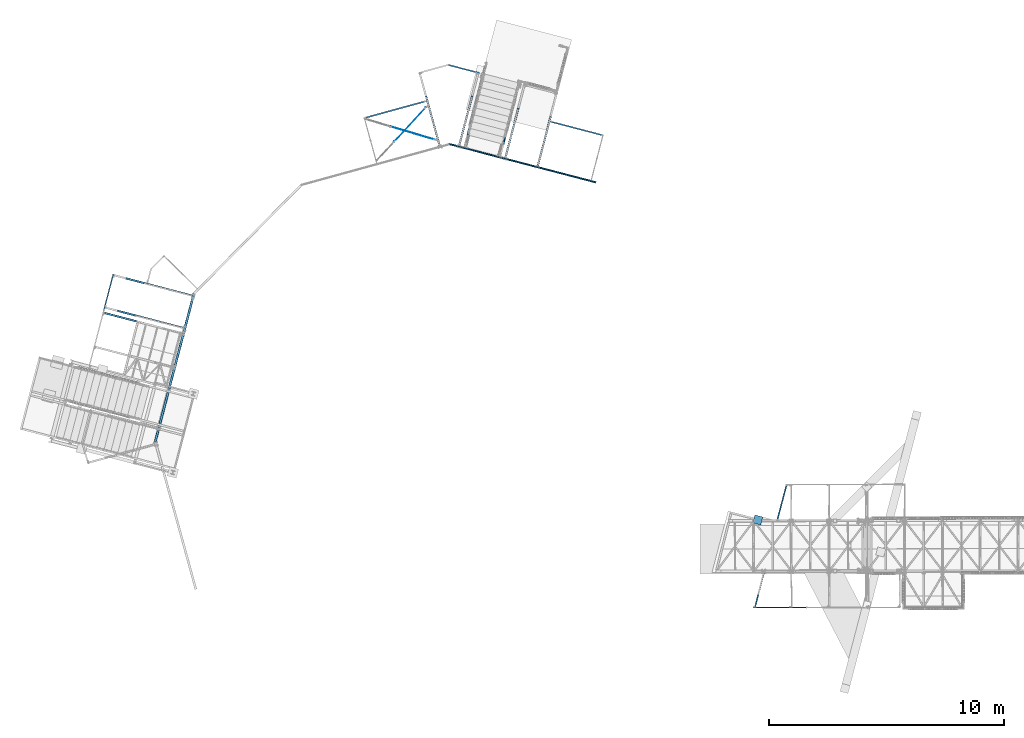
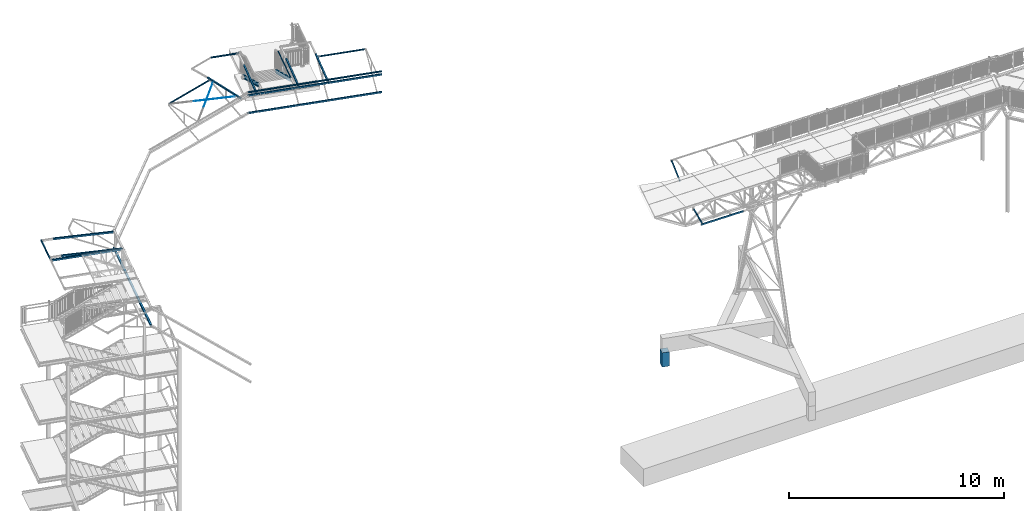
# One storey, part 14 of 169: 22 beams, 2 members, 24 elements without a shape of their own.
"""IFC2X3 building model written with IfcOpenShell, lengths in millimetres."""

from ifc_helpers import new_model, si_unit, frame, origin_with_axes, origin_2d_with_axis, place, context, subcontext, project, spatial, rectangle, hollow_rectangle, circle, l_section, u_section, extrude, boolean, clip, halfspace, material, type_object, element, aggregate, save


model = new_model("IFC2X3")

# Units and contexts
model_context = context("Model", 3, precision=1e-05, world=origin_with_axes())
body_context = subcontext(model_context, "Body", "Model", "MODEL_VIEW")
ifc_project = project(units=[si_unit("LENGTHUNIT", "METRE", prefix="MILLI"), si_unit("AREAUNIT", "SQUARE_METRE"), si_unit("VOLUMEUNIT", "CUBIC_METRE"), si_unit("MASSUNIT", "GRAM", prefix="KILO"), si_unit("TIMEUNIT", "SECOND"), si_unit("PLANEANGLEUNIT", "RADIAN"), si_unit("SOLIDANGLEUNIT", "STERADIAN"), si_unit("THERMODYNAMICTEMPERATUREUNIT", "DEGREE_CELSIUS"), si_unit("LUMINOUSINTENSITYUNIT", "LUMEN")], contexts=[model_context])

# Site, building, storey
site_placement = place(None, origin_with_axes())
site = spatial("IfcSite", under=ifc_project, at=site_placement, Name="Undefined", CompositionType="ELEMENT")
building_placement = place(site_placement, origin_with_axes())
building = spatial("IfcBuilding", under=site, at=building_placement, Name="Undefined", CompositionType="ELEMENT")
storey_placement = place(building_placement, origin_with_axes())
storey = spatial("IfcBuildingStorey", under=building, at=storey_placement, Name="Undefined", CompositionType="ELEMENT", Elevation=0.0)

# Assembly, beam
assembly_1_placement = place(storey_placement, origin_with_axes())
assembly_1 = element("IfcElementAssembly", 1, at=assembly_1_placement, inside=storey, Name="Steel Assembly", AssemblyPlace="NOTDEFINED", PredefinedType="RIGID_FRAME")
ifc_material_1 = material(Name="STEEL/S355")
beam_type_1 = type_object("IfcBeamType", Name="C80*40*3", PredefinedType="NOTDEFINED")
beam_1_placement = place(assembly_1_placement, frame((3555.83307551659, -1433.68193328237, 13902.0316070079), z_axis=(0.0124056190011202, 0.117622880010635, 0.992980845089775), x_axis=(-0.999917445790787, -0.00186469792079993, 0.0127131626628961)))
beam_1 = element("IfcBeam", 2, at=beam_1_placement, type_object=beam_type_1, material=ifc_material_1, Name="BEAM", ObjectType="C80*40*3", context=body_context, shape_type="Clipping", body=[
    clip(extrude(u_section(Depth=80.0, FlangeWidth=40.0, WebThickness=3.0, FlangeThickness=3.0, FilletRadius=4.5, at=origin_2d_with_axis()), frame((2272.00000001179, -4.54254689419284e-13, 0.0), z_axis=(-1.0, -3.46944695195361e-18, -1.38777878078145e-17), x_axis=(1.73472347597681e-18, -1.0, 0.0)), (0.0, 0.0, 1.0), 2262.0), halfspace(frame((9.99999967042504, 1.51658241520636e-09, -999.999999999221), z_axis=(1.0, 0.0, 0.0), x_axis=(1.73472347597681e-18, -1.0, 0.0)), True)),
])
aggregate(assembly_1, [beam_1])

assembly_2_placement = place(storey_placement, origin_with_axes())
assembly_2 = element("IfcElementAssembly", 3, at=assembly_2_placement, inside=storey, Name="Steel Assembly", AssemblyPlace="NOTDEFINED", PredefinedType="RIGID_FRAME")
ifc_material_2 = material(Name="STEEL/S235")
beam_2_placement = place(assembly_2_placement, frame((-10361.4988746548, 21288.8767109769, 13950.4176071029), z_axis=(-2.54700353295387e-10, 0.0, -1.0), x_axis=(-0.967563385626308, 0.252628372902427, -1.72000000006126e-07)))
beam_2 = element("IfcBeam", 4, at=beam_2_placement, type_object=beam_type_1, material=ifc_material_2, Name="BEAM", ObjectType="C80*40*3", context=body_context, shape_type="Clipping", body=[
    clip(extrude(u_section(Depth=80.0, FlangeWidth=40.0, WebThickness=3.0, FlangeThickness=3.0, FilletRadius=4.5, at=origin_2d_with_axis()), frame((1375.87935039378, -3.63797880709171e-12, -1.81898940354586e-12), z_axis=(-1.0, -3.46944695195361e-18, -1.38777878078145e-17), x_axis=(1.73472347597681e-18, -1.0, 0.0)), (0.0, 0.0, 1.0), 1375.88), halfspace(frame((1355.23247194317, -20.000000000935, -1.81898940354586e-12), z_axis=(-0.965924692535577, 0.258823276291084, 1.01328658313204e-10), x_axis=(-2.54700353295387e-10, 0.0, -1.0)), True)),
])
aggregate(assembly_2, [beam_2])

assembly_3_placement = place(storey_placement, origin_with_axes())
assembly_3 = element("IfcElementAssembly", 5, at=assembly_3_placement, inside=storey, Name="Steel Assembly", AssemblyPlace="NOTDEFINED", PredefinedType="RIGID_FRAME")
beam_type_2 = type_object("IfcBeamType", Name="SHS60*3", PredefinedType="NOTDEFINED")
beam_3_placement = place(assembly_3_placement, frame((2295.01354771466, 2204.35859653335, 13732.6759285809), z_axis=(-0.967485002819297, 0.2526293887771, 0.0122947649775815), x_axis=(0.252350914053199, 0.960852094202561, 0.114377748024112)))
beam_3 = element("IfcBeam", 6, at=beam_3_placement, type_object=beam_type_2, material=ifc_material_1, Name="BEAM", ObjectType="SHS60*3", context=body_context, shape_type="Clipping", body=[
    clip(clip(extrude(hollow_rectangle(XDim=60.0, YDim=60.0, WallThickness=3.0, InnerFilletRadius=3.0, OuterFilletRadius=6.0, at=origin_2d_with_axis()), frame((1638.48398458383, 1.7962508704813e-12, 2.40874679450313e-13), z_axis=(-1.0, -3.46944695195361e-18, -1.38777878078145e-17), x_axis=(1.73472347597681e-18, -1.0, 0.0)), (0.0, 0.0, 1.0), 1542.31), halfspace(frame((1611.74311126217, 28.7836646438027, 0.861634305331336), z_axis=(-0.967545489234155, 0.00384330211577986, -0.252667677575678), x_axis=(-0.252667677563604, -0.0299212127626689, 0.967090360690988)), True)), halfspace(frame((130.642665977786, 0.928182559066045, -29.9999999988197), z_axis=(0.960379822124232, 0.113729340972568, 0.254433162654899), x_axis=(0.117599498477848, -0.9930611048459, -1.69175905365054e-09)), True)),
])
aggregate(assembly_3, [beam_3])

assembly_4_placement = place(storey_placement, origin_with_axes())
assembly_4 = element("IfcElementAssembly", 7, at=assembly_4_placement, inside=storey, Name="Steel Assembly", AssemblyPlace="NOTDEFINED", PredefinedType="RIGID_FRAME")
beam_4_placement = place(assembly_4_placement, frame((1775.38479325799, 153.519536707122, 13745.789671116), z_axis=(-0.968017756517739, 0.250871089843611, -0.00230637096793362), x_axis=(-0.249410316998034, -0.961305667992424, 0.116986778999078)))
beam_4 = element("IfcBeam", 8, at=beam_4_placement, type_object=beam_type_2, material=ifc_material_1, Name="BEAM", ObjectType="SHS60*3", context=body_context, shape_type="Clipping", body=[
    clip(clip(extrude(hollow_rectangle(XDim=60.0, YDim=60.0, WallThickness=3.0, InnerFilletRadius=3.0, OuterFilletRadius=6.0, at=origin_2d_with_axis()), frame((1638.43681214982, 1.86446516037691e-12, -2.30127090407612e-13), z_axis=(-1.0, -3.46944695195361e-18, -1.38777878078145e-17), x_axis=(1.73472347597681e-18, -1.0, 0.0)), (0.0, 0.0, 1.0), 1542.05), halfspace(frame((1611.81150637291, 31.1630654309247, 0.474018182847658), z_axis=(-0.967552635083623, -0.00384288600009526, 0.252640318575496), x_axis=(0.252669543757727, -0.0147156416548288, 0.967440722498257)), True)), halfspace(frame((130.848717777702, -0.456428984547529, 30.0067112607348), z_axis=(0.96083888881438, -0.113769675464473, -0.252675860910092), x_axis=(0.113783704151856, 0.99339816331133, -0.0146067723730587)), True)),
])
aggregate(assembly_4, [beam_4])

assembly_5_placement = place(storey_placement, origin_with_axes())
assembly_5 = element("IfcElementAssembly", 9, at=assembly_5_placement, inside=storey, Name="Steel Assembly", AssemblyPlace="NOTDEFINED", PredefinedType="RIGID_FRAME")
beam_type_3 = type_object("IfcBeamType", Name="C100*50*3", PredefinedType="NOTDEFINED")
beam_5_placement = place(assembly_5_placement, frame((-25912.4579633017, 12741.0195183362, 13975.0978932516), z_axis=(8.00909999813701e-05, -0.000162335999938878, -0.999999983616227), x_axis=(-0.252628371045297, -0.967563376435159, 0.000136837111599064)))
beam_5 = element("IfcBeam", 10, at=beam_5_placement, type_object=beam_type_3, material=ifc_material_2, Name="BEAM", ObjectType="C100*50*3", context=body_context, shape_type="Clipping", body=[
    clip(extrude(u_section(Depth=100.0, FlangeWidth=50.0, WebThickness=3.0, FlangeThickness=3.0, FilletRadius=4.5, at=origin_2d_with_axis()), frame((1569.99999999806, -2.69527646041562e-14, -4.25549352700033e-17), z_axis=(-1.0, -3.46944695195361e-18, -1.38777878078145e-17), x_axis=(1.73472347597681e-18, -1.0, 0.0)), (0.0, 0.0, 1.0), 1570.0), halfspace(frame((1569.99999988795, 3.01588443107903e-09, -1000.00000000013), z_axis=(-1.0, -3.46944695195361e-18, -1.38777878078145e-17), x_axis=(0.0, 1.0, 0.0)), True)),
])
aggregate(assembly_5, [beam_5])

assembly_6_placement = place(storey_placement, origin_with_axes())
assembly_6 = element("IfcElementAssembly", 11, at=assembly_6_placement, inside=storey, Name="Steel Assembly", AssemblyPlace="NOTDEFINED", PredefinedType="RIGID_FRAME")
beam_type_4 = type_object("IfcBeamType", Name="RHS100*80*4", PredefinedType="NOTDEFINED")
beam_6_placement = place(assembly_6_placement, frame((-22989.9951886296, 10226.149283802, 13975.4920334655), z_axis=(-5.90399999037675e-06, -0.000139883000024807, -0.999999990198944), x_axis=(-0.967563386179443, 0.252628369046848, -2.9626000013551e-05)))
beam_6 = element("IfcBeam", 12, at=beam_6_placement, type_object=beam_type_4, material=ifc_material_1, Name="BEAM", ObjectType="RHS100*80*4", context=body_context, shape_type="Clipping", body=[
    clip(clip(extrude(hollow_rectangle(XDim=80.0, YDim=100.0, WallThickness=4.0, InnerFilletRadius=4.0, OuterFilletRadius=8.0, at=origin_2d_with_axis()), frame((3416.99555623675, 1.37553656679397e-12, -1.15772312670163e-17), z_axis=(-1.0, -3.46944695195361e-18, -1.38777878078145e-17), x_axis=(1.73472347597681e-18, -1.0, 0.0)), (0.0, 0.0, 1.0), 3451.9), halfspace(frame((3416.99555607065, 9.35551724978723e-09, 50.0000000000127), z_axis=(-1.0, -3.46944695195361e-18, -1.38777878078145e-17), x_axis=(1.73472347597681e-18, -1.0, 0.0)), True)), halfspace(frame((5.00000023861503, 6.82121026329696e-11, -50.0000000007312), z_axis=(-0.780868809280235, -4.01402798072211e-12, 0.624695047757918), x_axis=(0.0, 1.0, 0.0)), False)),
])
aggregate(assembly_6, [beam_6])

assembly_7_placement = place(storey_placement, origin_with_axes())
assembly_7 = element("IfcElementAssembly", 13, at=assembly_7_placement, inside=storey, Name="Steel Assembly", AssemblyPlace="NOTDEFINED", PredefinedType="RIGID_FRAME")
beam_7_placement = place(assembly_7_placement, frame((-22903.2504655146, 10441.1903941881, 13829.2577581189), z_axis=(-0.0482380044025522, 0.0124535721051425, -0.998758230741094), x_axis=(-0.966360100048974, 0.252321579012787, 0.0498194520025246)))
beam_7 = element("IfcBeam", 14, at=beam_7_placement, type_object=beam_type_4, material=ifc_material_2, Name="BEAM", ObjectType="RHS100*80*4", context=body_context, shape_type="Clipping", body=[
    clip(clip(extrude(hollow_rectangle(XDim=80.0, YDim=100.0, WallThickness=4.0, InnerFilletRadius=4.0, OuterFilletRadius=8.0, at=origin_2d_with_axis()), frame((2978.18675110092, -9.93412255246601e-13, 0.0), z_axis=(-1.0, -3.46944695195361e-18, -1.38777878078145e-17), x_axis=(1.73472347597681e-18, -1.0, 0.0)), (0.0, 0.0, 1.0), 2993.28), halfspace(frame((2933.69257357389, -8.90390765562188e-05, -50.0002615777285), z_axis=(-0.999687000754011, -1.63186503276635e-07, -0.0250180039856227), x_axis=(4.12714143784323e-10, 0.999999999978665, -6.5321809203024e-06)), True)), halfspace(frame((30.6545753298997, -39.9991890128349, 6.39980498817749e-07), z_axis=(0.998752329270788, -1.61183526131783e-08, 0.0499378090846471), x_axis=(-0.0499378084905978, 1.77374968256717e-08, 0.998752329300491)), True)),
])
aggregate(assembly_7, [beam_7])

assembly_8_placement = place(storey_placement, origin_with_axes())
assembly_8 = element("IfcElementAssembly", 15, at=assembly_8_placement, inside=storey, Name="Steel Assembly", AssemblyPlace="NOTDEFINED", PredefinedType="RIGID_FRAME")
beam_8_placement = place(assembly_8_placement, frame((-22543.2550363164, 11819.9682054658, 13829.0627653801), z_axis=(-0.0482380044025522, 0.0124535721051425, -0.998758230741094), x_axis=(-0.966360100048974, 0.252321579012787, 0.0498194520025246)))
beam_8 = element("IfcBeam", 16, at=beam_8_placement, type_object=beam_type_4, material=ifc_material_2, Name="BEAM", ObjectType="RHS100*80*4", context=body_context, shape_type="Clipping", body=[
    clip(clip(extrude(hollow_rectangle(XDim=80.0, YDim=100.0, WallThickness=4.0, InnerFilletRadius=4.0, OuterFilletRadius=8.0, at=origin_2d_with_axis()), frame((2978.18617493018, -9.10602132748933e-13, 0.0), z_axis=(-1.0, -3.46944695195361e-18, -1.38777878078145e-17), x_axis=(1.73472347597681e-18, -1.0, 0.0)), (0.0, 0.0, 1.0), 2993.28), halfspace(frame((2933.69199731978, -8.80848228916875e-05, -50.0002606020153), z_axis=(-0.999687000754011, -1.63186503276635e-07, -0.0250180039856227), x_axis=(4.12714143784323e-10, 0.999999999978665, -6.5321809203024e-06)), True)), halfspace(frame((30.6545753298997, -39.9991890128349, 6.39980498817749e-07), z_axis=(0.998752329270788, -1.61183526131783e-08, 0.0499378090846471), x_axis=(-0.0499378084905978, 1.77374968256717e-08, 0.998752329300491)), True)),
])
aggregate(assembly_8, [beam_8])

assembly_9_placement = place(storey_placement, origin_with_axes())
assembly_9 = element("IfcElementAssembly", 17, at=assembly_9_placement, inside=storey, Name="Steel Assembly", AssemblyPlace="NOTDEFINED", PredefinedType="RIGID_FRAME")
beam_type_5 = type_object("IfcBeamType", Name="SHS80*4", PredefinedType="NOTDEFINED")
beam_9_placement = place(assembly_9_placement, frame((-12035.5015905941, 18181.7315690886, 13840.5327014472), z_axis=(-0.0132335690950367, 0.0481524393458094, -0.99875232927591), x_axis=(-0.264670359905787, 0.96304507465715, 0.0499378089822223)))
beam_9 = element("IfcBeam", 18, at=beam_9_placement, type_object=beam_type_5, material=ifc_material_2, Name="BEAM", ObjectType="SHS80*4", context=body_context, shape_type="Clipping", body=[
    clip(clip(extrude(hollow_rectangle(XDim=80.0, YDim=80.0, WallThickness=4.0, InnerFilletRadius=4.0, OuterFilletRadius=8.0, at=origin_2d_with_axis()), frame((2246.72230198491, 7.98642458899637e-13, -3.1179535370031e-14), z_axis=(-1.0, -3.46944695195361e-18, -1.38777878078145e-17), x_axis=(1.73472347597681e-18, -1.0, 0.0)), (0.0, 0.0, 1.0), 2261.74), halfspace(frame((2201.43447402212, 0.000261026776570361, -40.0002591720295), z_axis=(-0.999688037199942, 1.61544689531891e-07, -0.0249765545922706), x_axis=(-1.25063525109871e-09, 0.999999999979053, 6.47253026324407e-06)), True)), halfspace(frame((31.2705059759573, 40.0008109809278, -4.39558789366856e-08), z_axis=(0.998752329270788, -1.61183526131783e-08, 0.0499378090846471), x_axis=(0.0499378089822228, -8.51138014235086e-11, -0.99875232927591)), True)),
])
aggregate(assembly_9, [beam_9])

assembly_10_placement = place(storey_placement, origin_with_axes())
assembly_10 = element("IfcElementAssembly", 19, at=assembly_10_placement, inside=storey, Name="Steel Assembly", AssemblyPlace="NOTDEFINED", PredefinedType="RIGID_FRAME")
beam_10_placement = place(assembly_10_placement, frame((-11211.7764328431, 18190.6628794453, 13840.5327014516), z_axis=(0.0126157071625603, 0.0483179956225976, -0.998752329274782), x_axis=(0.25231349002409, 0.966356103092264, 0.0499378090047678)))
beam_10 = element("IfcBeam", 20, at=beam_10_placement, type_object=beam_type_5, material=ifc_material_2, Name="BEAM", ObjectType="SHS80*4", context=body_context, shape_type="Clipping", body=[
    clip(clip(extrude(hollow_rectangle(XDim=80.0, YDim=80.0, WallThickness=4.0, InnerFilletRadius=4.0, OuterFilletRadius=8.0, at=origin_2d_with_axis()), frame((2244.93196070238, -1.81359368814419e-12, -1.81898940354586e-12), z_axis=(-1.0, -3.46944695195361e-18, -1.38777878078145e-17), x_axis=(1.73472347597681e-18, -1.0, 0.0)), (0.0, 0.0, 1.0), 2278.42), halfspace(frame((2201.43447402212, 0.000261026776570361, -40.0002591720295), z_axis=(-0.999688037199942, 1.61544689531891e-07, -0.0249765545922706), x_axis=(-1.25063525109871e-09, 0.999999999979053, 6.47253026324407e-06)), True)), halfspace(frame((11.0109438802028, 40.0008109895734, 5.18230081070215e-09), z_axis=(0.998752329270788, -1.61183526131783e-08, 0.0499378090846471), x_axis=(0.0499378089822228, -8.51138014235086e-11, -0.99875232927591)), True)),
])
aggregate(assembly_10, [beam_10])

assembly_11_placement = place(storey_placement, origin_with_axes())
assembly_11 = element("IfcElementAssembly", 21, at=assembly_11_placement, inside=storey, Name="Steel Assembly", AssemblyPlace="NOTDEFINED", PredefinedType="RIGID_FRAME")
beam_11_placement = place(assembly_11_placement, frame((-7873.60101963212, 17319.0736527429, 13840.5327014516), z_axis=(0.0126157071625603, 0.0483179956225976, -0.998752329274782), x_axis=(0.25231349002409, 0.966356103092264, 0.0499378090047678)))
beam_11 = element("IfcBeam", 22, at=beam_11_placement, type_object=beam_type_5, material=ifc_material_2, Name="BEAM", ObjectType="SHS80*4", context=body_context, shape_type="Clipping", body=[
    clip(clip(extrude(hollow_rectangle(XDim=80.0, YDim=80.0, WallThickness=4.0, InnerFilletRadius=4.0, OuterFilletRadius=8.0, at=origin_2d_with_axis()), frame((2244.93196070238, -1.81359368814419e-12, -1.81898940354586e-12), z_axis=(-1.0, -3.46944695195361e-18, -1.38777878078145e-17), x_axis=(1.73472347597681e-18, -1.0, 0.0)), (0.0, 0.0, 1.0), 2278.42), halfspace(frame((2201.43447402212, 0.000261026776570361, -40.0002591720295), z_axis=(-0.999688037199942, 1.61544689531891e-07, -0.0249765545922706), x_axis=(-1.25063525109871e-09, 0.999999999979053, 6.47253026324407e-06)), True)), halfspace(frame((11.0109438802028, 40.0008109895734, 5.18230081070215e-09), z_axis=(0.998752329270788, -1.61183526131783e-08, 0.0499378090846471), x_axis=(0.0499378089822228, -8.51138014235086e-11, -0.99875232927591)), True)),
])
aggregate(assembly_11, [beam_11])

assembly_12_placement = place(storey_placement, origin_with_axes())
assembly_12 = element("IfcElementAssembly", 23, at=assembly_12_placement, inside=storey, Name="Steel Assembly", AssemblyPlace="NOTDEFINED", PredefinedType="RIGID_FRAME")
beam_12_placement = place(assembly_12_placement, frame((-9247.54102659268, 17677.8059420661, 13840.5327014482), z_axis=(0.0126157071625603, 0.0483179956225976, -0.998752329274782), x_axis=(0.25231349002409, 0.966356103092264, 0.0499378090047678)))
beam_12 = element("IfcBeam", 24, at=beam_12_placement, type_object=beam_type_5, material=ifc_material_2, Name="BEAM", ObjectType="SHS80*4", context=body_context, shape_type="Clipping", body=[
    clip(clip(extrude(hollow_rectangle(XDim=80.0, YDim=80.0, WallThickness=4.0, InnerFilletRadius=4.0, OuterFilletRadius=8.0, at=origin_2d_with_axis()), frame((2244.93196070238, -1.81359368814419e-12, -1.81898940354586e-12), z_axis=(-1.0, -3.46944695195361e-18, -1.38777878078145e-17), x_axis=(1.73472347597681e-18, -1.0, 0.0)), (0.0, 0.0, 1.0), 2278.42), halfspace(frame((2201.43447402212, 0.000261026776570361, -40.0002591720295), z_axis=(-0.999688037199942, 1.61544689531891e-07, -0.0249765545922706), x_axis=(-1.25063525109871e-09, 0.999999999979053, 6.47253026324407e-06)), True)), halfspace(frame((11.0109438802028, 40.0008109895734, 5.18230081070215e-09), z_axis=(0.998752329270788, -1.61183526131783e-08, 0.0499378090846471), x_axis=(0.0499378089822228, -8.51138014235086e-11, -0.99875232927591)), True)),
])
aggregate(assembly_12, [beam_12])

assembly_13_placement = place(storey_placement, origin_with_axes())
assembly_13 = element("IfcElementAssembly", 25, at=assembly_13_placement, inside=storey, Name="Steel Assembly", AssemblyPlace="NOTDEFINED", PredefinedType="RIGID_FRAME")
beam_type_6 = type_object("IfcBeamType", Name="SHS50*3", PredefinedType="NOTDEFINED")
beam_13_placement = place(assembly_13_placement, frame((-9302.56628211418, 18377.8196980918, 14015.4176077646), z_axis=(0.967563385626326, -0.252628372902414, 0.0), x_axis=(0.252628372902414, 0.967563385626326, 0.0)))
beam_13 = element("IfcBeam", 26, at=beam_13_placement, type_object=beam_type_6, material=ifc_material_2, Name="PORĘCZ", ObjectType="SHS50*3", context=body_context, shape_type="Clipping", body=[
    clip(extrude(hollow_rectangle(XDim=50.0, YDim=50.0, WallThickness=3.0, InnerFilletRadius=3.0, OuterFilletRadius=6.0, at=origin_2d_with_axis()), frame((2135.73518441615, -1.81898940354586e-12, 0.0), z_axis=(-1.0, -3.46944695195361e-18, -1.38777878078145e-17), x_axis=(1.73472347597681e-18, -1.0, 0.0)), (0.0, 0.0, 1.0), 2135.74), halfspace(frame((2110.98885756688, 25.0000000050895, 3.2407660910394e-07), z_axis=(-0.973700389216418, 0.2278322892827, 0.0), x_axis=(0.0, 0.0, 1.0)), True)),
])
aggregate(assembly_13, [beam_13])

# Assembly, member
assembly_14_placement = place(storey_placement, origin_with_axes())
assembly_14 = element("IfcElementAssembly", 27, at=assembly_14_placement, inside=storey, Name="Steel Assembly", AssemblyPlace="NOTDEFINED", PredefinedType="RIGID_FRAME")
member_type = type_object("IfcMemberType", Name="UPE200", PredefinedType="NOTDEFINED")
member_1_placement = place(assembly_14_placement, frame((-9344.66486778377, 18216.5826628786, 13950.7221488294), z_axis=(0.111692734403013, 0.427781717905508, 0.896954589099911), x_axis=(0.226596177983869, 0.867860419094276, -0.442122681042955)))
member_1 = element("IfcMember", 28, at=member_1_placement, type_object=member_type, material=ifc_material_2, Name="BELKA", ObjectType="UPE200", context=body_context, shape_type="Clipping", body=[
    clip(clip(extrude(u_section(Depth=200.0, FlangeWidth=80.0, WebThickness=7.5, FlangeThickness=11.0, FilletRadius=12.0, EdgeRadius=3.0, at=origin_2d_with_axis()), frame((3158.12855242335, 1.6657673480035e-12, -7.45126896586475e-12), z_axis=(-1.0, -3.46944695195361e-18, -1.38777878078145e-17), x_axis=(1.73472347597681e-18, -1.0, 0.0)), (0.0, 0.0, 1.0), 3354.39), halfspace(frame((2876.36677465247, -1.79146081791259e-06, -100.00000071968), z_axis=(-0.849153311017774, 5.97156181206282e-10, 0.528146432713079), x_axis=(0.0, 1.0, 0.0)), True)), halfspace(frame((6.09808921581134e-07, -40.0000000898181, 100.000000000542), z_axis=(-0.97389798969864, -1.77151012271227e-15, -0.226986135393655), x_axis=(1.73472347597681e-18, -1.0, 0.0)), False)),
])
aggregate(assembly_14, [member_1])

assembly_15_placement = place(storey_placement, origin_with_axes())
assembly_15 = element("IfcElementAssembly", 29, at=assembly_15_placement, inside=storey, Name="Steel Assembly", AssemblyPlace="NOTDEFINED", PredefinedType="RIGID_FRAME")
member_2_placement = place(assembly_15_placement, frame((-10183.7785364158, 21217.4504157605, 12624.0179003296), z_axis=(0.111692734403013, 0.427781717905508, 0.896954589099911), x_axis=(-0.226596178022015, -0.867860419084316, 0.442122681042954)))
member_2 = element("IfcMember", 30, at=member_2_placement, type_object=member_type, material=ifc_material_2, Name="BELKA", ObjectType="UPE200", context=body_context, shape_type="Clipping", body=[
    clip(clip(extrude(u_section(Depth=200.0, FlangeWidth=80.0, WebThickness=7.5, FlangeThickness=11.0, FilletRadius=12.0, EdgeRadius=3.0, at=origin_2d_with_axis()), frame((3197.01841106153, -1.55108864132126e-13, -3.46050863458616e-12), z_axis=(-1.0, -3.46944695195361e-18, -1.38777878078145e-17), x_axis=(1.73472347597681e-18, -1.0, 0.0)), (0.0, 0.0, 1.0), 3354.39), halfspace(frame((3000.76043450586, -40.0000014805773, 99.9999999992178), z_axis=(-0.973897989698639, 0.0, 0.226986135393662), x_axis=(1.73472347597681e-18, -1.0, 0.0)), True)), halfspace(frame((124.39366003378, -4.41257725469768e-07, -100.000000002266), z_axis=(-0.849153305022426, 0.0, -0.528146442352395), x_axis=(0.0, 1.0, 0.0)), False)),
])
aggregate(assembly_15, [member_2])

# Assembly, beam
assembly_16_placement = place(storey_placement, origin_with_axes())
assembly_16 = element("IfcElementAssembly", 31, at=assembly_16_placement, inside=storey, Name="Steel Assembly", AssemblyPlace="NOTDEFINED", PredefinedType="RIGID_FRAME")
beam_type_7 = type_object("IfcBeamType", Name="C70*40*4", PredefinedType="NOTDEFINED")
beam_14_placement = place(assembly_16_placement, frame((-12564.8926248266, 20108.634395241, 13946.5082343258), z_axis=(0.000156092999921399, -0.000567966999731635, -0.999999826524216), x_axis=(-0.964243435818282, -0.265018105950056, 0.0)))
beam_14 = element("IfcBeam", 32, at=beam_14_placement, type_object=beam_type_7, material=ifc_material_2, Name="BEAM", ObjectType="C70*40*4", context=body_context, shape_type="Clipping", body=[
    clip(clip(extrude(u_section(Depth=70.0, FlangeWidth=40.0, WebThickness=4.0, FlangeThickness=4.0, FilletRadius=6.0, at=origin_2d_with_axis()), frame((2740.00034876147, 3.79007938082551e-12, 1.81891513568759e-12), z_axis=(-1.0, -3.46944695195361e-18, -1.38777878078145e-17), x_axis=(1.73472347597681e-18, -1.0, 0.0)), (0.0, 0.0, 1.0), 2679.83), halfspace(frame((2740.0003474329, -0.000174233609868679, -135.000027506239), z_axis=(0.999999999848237, 1.7422011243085e-05, -9.88795590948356e-09), x_axis=(1.74220112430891e-05, -0.999999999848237, 4.15066096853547e-10)), False)), halfspace(frame((60.1668408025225, 0.000354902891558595, -135.000001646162), z_axis=(-0.99999999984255, -1.77453817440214e-05, 2.73401669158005e-08), x_axis=(-1.77453817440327e-05, 0.999999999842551, -4.14638634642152e-10)), False)),
])
aggregate(assembly_16, [beam_14])

assembly_17_placement = place(storey_placement, origin_with_axes())
assembly_17 = element("IfcElementAssembly", 33, at=assembly_17_placement, inside=storey, Name="Steel Assembly", AssemblyPlace="NOTDEFINED", PredefinedType="RIGID_FRAME")
beam_15_placement = place(assembly_17_placement, frame((-5121.70304029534, 18644.971583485, 13945.4856094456), z_axis=(-2.54700353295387e-10, 0.0, -1.0), x_axis=(-0.967563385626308, 0.252628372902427, -1.72000000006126e-07)))
beam_15 = element("IfcBeam", 34, at=beam_15_placement, type_object=beam_type_7, material=ifc_material_2, Name="BEAM", ObjectType="C70*40*4", context=body_context, shape_type="Clipping", body=[
    clip(clip(extrude(u_section(Depth=70.0, FlangeWidth=40.0, WebThickness=4.0, FlangeThickness=4.0, FilletRadius=6.0, at=origin_2d_with_axis()), frame((2267.6756457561, 0.0, -1.81898940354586e-12), z_axis=(-1.0, -3.46944695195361e-18, -1.38777878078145e-17), x_axis=(1.73472347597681e-18, -1.0, 0.0)), (0.0, 0.0, 1.0), 2257.68), halfspace(frame((2267.67564353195, -6.4892738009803e-06, -135.000037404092), z_axis=(1.0, 0.0, 0.0), x_axis=(1.73472347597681e-18, -1.0, 0.0)), False)), halfspace(frame((10.0000007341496, -6.54836185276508e-11, -135.000000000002), z_axis=(-1.0, -3.46944695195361e-18, -1.38777878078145e-17), x_axis=(0.0, 1.0, 0.0)), False)),
])
aggregate(assembly_17, [beam_15])

assembly_18_placement = place(storey_placement, origin_with_axes())
assembly_18 = element("IfcElementAssembly", 35, at=assembly_18_placement, inside=storey, Name="Steel Assembly", AssemblyPlace="NOTDEFINED", PredefinedType="RIGID_FRAME")
beam_type_8 = type_object("IfcBeamType", Name="SHS100*5", PredefinedType="NOTDEFINED")
beam_16_placement = place(assembly_18_placement, frame((-22483.7054696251, 11919.856373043, 12831.4867197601), z_axis=(-8.00909999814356e-05, 0.000162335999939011, 0.999999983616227), x_axis=(-0.252628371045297, -0.967563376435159, 0.000136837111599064)))
beam_16 = element("IfcBeam", 36, at=beam_16_placement, type_object=beam_type_8, material=ifc_material_2, Name="BEAM", ObjectType="SHS100*5", context=body_context, shape_type="Clipping", body=[
    clip(clip(extrude(hollow_rectangle(XDim=100.0, YDim=100.0, WallThickness=5.0, InnerFilletRadius=5.0, OuterFilletRadius=10.0, at=origin_2d_with_axis()), frame((6561.29510908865, 1.59191692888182e-13, -1.81916724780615e-12), z_axis=(-1.0, -3.46944695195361e-18, -1.38777878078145e-17), x_axis=(1.73472347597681e-18, -1.0, 0.0)), (0.0, 0.0, 1.0), 6597.94), halfspace(frame((6524.63734068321, -50.0314429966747, 0.0280555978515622), z_axis=(-0.965956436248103, -0.258704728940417, 0.000162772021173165), x_axis=(-2.76505488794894e-10, -0.000629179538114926, -0.999999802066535)), True)), halfspace(frame((26.8308379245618, 50.0591375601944, -0.0665926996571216), z_axis=(0.96591568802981, -0.258856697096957, 0.000306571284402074), x_axis=(-5.42504494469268e-11, -0.00118432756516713, -0.999999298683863)), True)),
])
aggregate(assembly_18, [beam_16])

assembly_19_placement = place(storey_placement, origin_with_axes())
assembly_19 = element("IfcElementAssembly", 37, at=assembly_19_placement, inside=storey, Name="Steel Assembly", AssemblyPlace="NOTDEFINED", PredefinedType="RIGID_FRAME")
beam_type_9 = type_object("IfcBeamType", Name="D10", PredefinedType="NOTDEFINED")
beam_17_placement = place(assembly_19_placement, frame((-13978.0027894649, 18360.2165995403, 13889.8895194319), z_axis=(0.013233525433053, -0.0481524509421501, 0.998752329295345), x_axis=(0.678875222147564, 0.733779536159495, 0.0263822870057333)))
beam_17 = element("IfcBeam", 38, at=beam_17_placement, type_object=beam_type_9, material=ifc_material_2, Name="BEAM", ObjectType="D10", context=body_context, shape_type="CSG", body=[
    boolean("DIFFERENCE", boolean("DIFFERENCE", boolean("UNION", extrude(circle(Radius=5.0, at=origin_2d_with_axis()), frame((1999.99999736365, 1.04083408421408e-14, 1.81898940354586e-12), z_axis=(-1.0, -3.46944695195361e-18, -1.38777878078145e-17), x_axis=(1.73472347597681e-18, -1.0, 0.0)), (0.0, 0.0, 1.0), 1980.0), extrude(circle(Radius=5.0, at=origin_2d_with_axis()), frame((20.000000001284, 2.21976767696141e-09, -4.23943533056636e-10), z_axis=(1.0, 0.0, 0.0), x_axis=(0.0, 0.0, 1.0)), (0.0, 0.0, 1.0), 100.0)), halfspace(frame((1999.99999736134, -9.47366061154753e-08, -3.99999982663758), z_axis=(-1.0, -3.46944695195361e-18, -1.38777878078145e-17), x_axis=(0.0, 1.0, 0.0)), True)), halfspace(frame((20.0000000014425, 1.86628312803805e-09, -4.99999954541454), z_axis=(1.0, 0.0, 0.0), x_axis=(1.73472347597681e-18, -1.0, 0.0)), True)),
])
aggregate(assembly_19, [beam_17])

assembly_20_placement = place(storey_placement, origin_with_axes())
assembly_20 = element("IfcElementAssembly", 39, at=assembly_20_placement, inside=storey, Name="Steel Assembly", AssemblyPlace="NOTDEFINED", PredefinedType="RIGID_FRAME")
beam_18_placement = place(assembly_20_placement, frame((-14159.4501779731, 19020.4416983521, 13924.1248794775), z_axis=(0.013233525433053, -0.0481524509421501, 0.998752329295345), x_axis=(0.958527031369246, -0.283777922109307, -0.0263822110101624)))
beam_18 = element("IfcBeam", 40, at=beam_18_placement, type_object=beam_type_9, material=ifc_material_2, Name="BEAM", ObjectType="D10", context=body_context, shape_type="CSG", body=[
    boolean("DIFFERENCE", boolean("DIFFERENCE", boolean("UNION", extrude(circle(Radius=5.0, at=origin_2d_with_axis()), frame((1998.67924392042, -4.85401812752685e-14, 0.0), z_axis=(-1.0, -3.46944695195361e-18, -1.38777878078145e-17), x_axis=(1.73472347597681e-18, -1.0, 0.0)), (0.0, 0.0, 1.0), 1978.68), extrude(circle(Radius=5.0, at=origin_2d_with_axis()), frame((20.000000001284, 2.21976767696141e-09, -4.23943533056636e-10), z_axis=(1.0, 0.0, 0.0), x_axis=(0.0, 0.0, 1.0)), (0.0, 0.0, 1.0), 100.0)), halfspace(frame((1998.67924392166, 9.47511580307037e-08, -3.9999998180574), z_axis=(-1.0, -3.46944695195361e-18, -1.38777878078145e-17), x_axis=(0.0, 1.0, 0.0)), True)), halfspace(frame((20.0000000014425, 1.86628312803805e-09, -4.99999954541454), z_axis=(1.0, 0.0, 0.0), x_axis=(1.73472347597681e-18, -1.0, 0.0)), True)),
])
aggregate(assembly_20, [beam_18])

assembly_21_placement = place(storey_placement, origin_with_axes())
assembly_21 = element("IfcElementAssembly", 41, at=assembly_21_placement, inside=storey, Name="Steel Assembly", AssemblyPlace="NOTDEFINED", PredefinedType="RIGID_FRAME")
beam_type_10 = type_object("IfcBeamType", Name="RHS100*60*6", PredefinedType="NOTDEFINED")
beam_19_placement = place(assembly_21_placement, frame((-11617.7259468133, 18263.579608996, 12831.4804586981), z_axis=(0.0, 0.0, 1.0), x_axis=(0.967563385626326, -0.252628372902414, 0.0)))
beam_19 = element("IfcBeam", 42, at=beam_19_placement, type_object=beam_type_10, material=ifc_material_2, Name="BEAM", ObjectType="RHS100*60*6", context=body_context, shape_type="Clipping", body=[
    clip(extrude(hollow_rectangle(XDim=60.0, YDim=100.0, WallThickness=6.0, InnerFilletRadius=6.0, OuterFilletRadius=12.0, at=origin_2d_with_axis()), frame((6427.92219140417, -1.46216804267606e-12, 1.81898942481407e-12), z_axis=(-1.0, -3.46944695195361e-18, -1.38777878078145e-17), x_axis=(1.73472347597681e-18, -1.0, 0.0)), (0.0, 0.0, 1.0), 6491.3), halfspace(frame((47.9968412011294, -30.0000000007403, -1.35338814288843e-06), z_axis=(0.529694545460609, 0.848188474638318, 3.764611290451e-08), x_axis=(0.0, 0.0, 1.0)), True)),
])
aggregate(assembly_21, [beam_19])

assembly_22_placement = place(storey_placement, origin_with_axes())
assembly_22 = element("IfcElementAssembly", 43, at=assembly_22_placement, inside=storey, Name="Steel Assembly", AssemblyPlace="NOTDEFINED", PredefinedType="RIGID_FRAME")
beam_20_placement = place(assembly_22_placement, frame((-11617.7259467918, 18263.5796090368, 13830.4804587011), z_axis=(0.0, 0.0, 1.0), x_axis=(0.967563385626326, -0.252628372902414, 0.0)))
beam_20 = element("IfcBeam", 44, at=beam_20_placement, type_object=beam_type_10, material=ifc_material_2, Name="BEAM", ObjectType="RHS100*60*6", context=body_context, shape_type="Clipping", body=[
    clip(extrude(hollow_rectangle(XDim=60.0, YDim=100.0, WallThickness=6.0, InnerFilletRadius=6.0, OuterFilletRadius=12.0, at=origin_2d_with_axis()), frame((6427.92219140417, -1.46216804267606e-12, 1.81898942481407e-12), z_axis=(-1.0, -3.46944695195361e-18, -1.38777878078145e-17), x_axis=(1.73472347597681e-18, -1.0, 0.0)), (0.0, 0.0, 1.0), 6491.3), halfspace(frame((47.9968412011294, -30.0000000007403, -1.35338814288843e-06), z_axis=(0.529694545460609, 0.848188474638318, 3.764611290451e-08), x_axis=(0.0, 0.0, 1.0)), True)),
])
aggregate(assembly_22, [beam_20])

assembly_23_placement = place(storey_placement, origin_with_axes())
assembly_23 = element("IfcElementAssembly", 45, at=assembly_23_placement, inside=storey, Name="Steel Assembly", AssemblyPlace="NOTDEFINED", PredefinedType="RIGID_FRAME")
beam_type_11 = type_object("IfcBeamType", Name="L40*60*6", PredefinedType="NOTDEFINED")
beam_21_placement = place(assembly_23_placement, frame((-11617.7259927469, 18263.5794329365, 14004.4176077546), z_axis=(0.0, 0.0, 1.0), x_axis=(0.967563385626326, -0.252628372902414, 0.0)))
beam_21 = element("IfcBeam", 46, at=beam_21_placement, type_object=beam_type_11, material=ifc_material_2, Name="BEAM", ObjectType="L40*60*6", context=body_context, shape_type="Clipping", body=[
    clip(extrude(l_section(Depth=40.0, Width=60.0, Thickness=6.0, FilletRadius=9.0, at=origin_2d_with_axis()), frame((6427.92219140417, -1.46216804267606e-12, 1.81898942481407e-12), z_axis=(-1.0, -3.46944695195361e-18, -1.38777878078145e-17), x_axis=(1.73472347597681e-18, -1.0, 0.0)), (0.0, 0.0, 1.0), 6450.9), halfspace(frame((7.99699971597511, -30.0000008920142, -1.33721550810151e-06), z_axis=(0.965925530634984, 0.258820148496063, 1.14875092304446e-08), x_axis=(0.0, 0.0, 1.0)), True)),
])
aggregate(assembly_23, [beam_21])

assembly_24_placement = place(storey_placement, origin_with_axes())
assembly_24 = element("IfcElementAssembly", 47, at=assembly_24_placement, inside=storey, Name="BEAM", AssemblyPlace="NOTDEFINED", PredefinedType="REINFORCEMENT_UNIT")
ifc_material_3 = material(Name="CONCRETE/C45/55")
beam_type_12 = type_object("IfcBeamType", Name="350*350", PredefinedType="NOTDEFINED")
beam_22_placement = place(assembly_24_placement, frame((1485.9465641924, 2290.20059649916, 4480.41712959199), z_axis=(0.967563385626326, -0.252628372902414, 0.0), x_axis=(-2.54700353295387e-10, 0.0, -1.0)))
beam_22 = element("IfcBeam", 48, at=beam_22_placement, type_object=beam_type_12, material=ifc_material_3, Name="BEAM", ObjectType="350*350", context=body_context, shape_type="SweptSolid", body=[
    extrude(rectangle(XDim=350.0, YDim=350.0, at=origin_2d_with_axis()), frame((810.00000000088, 3.93634573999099e-21, 0.0), z_axis=(-1.0, -3.46944695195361e-18, -1.38777878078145e-17), x_axis=(1.73472347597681e-18, -1.0, 0.0)), (0.0, 0.0, 1.0), 810.0),
])
aggregate(assembly_24, [beam_22])

save(model, "model.ifc")
